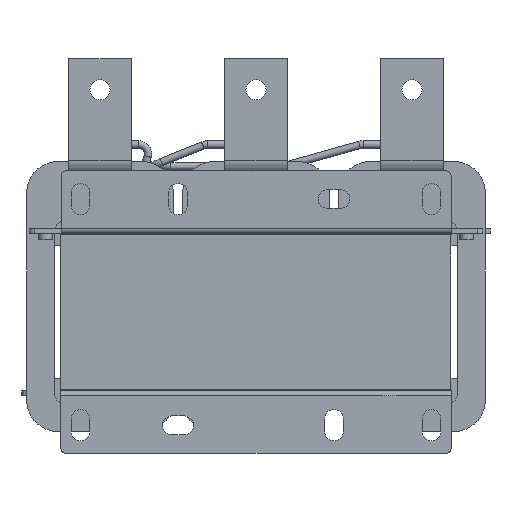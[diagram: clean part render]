
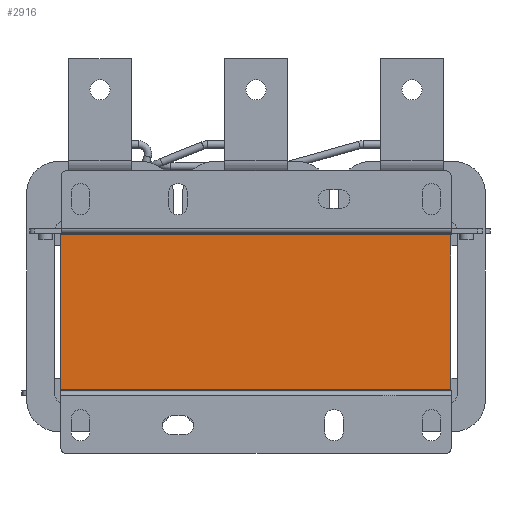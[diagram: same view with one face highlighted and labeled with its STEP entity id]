
A CAD part, front view. The second image highlights one B-rep face of the part: STEP entity #2916.
In plain terms, the highlighted planar face has unit normal (0, -1, 0).
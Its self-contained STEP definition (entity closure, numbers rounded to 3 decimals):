
#2916=ADVANCED_FACE('',(#9805),#9807,.F.);
#9805=FACE_BOUND('',#9806,.T.);
#9806=EDGE_LOOP('',(#18715,#18716,#18717,#18718));
#9807=PLANE('',#9808);
#9808=AXIS2_PLACEMENT_3D('',#9809,#9810,#9811);
#9809=CARTESIAN_POINT('',(-125.,-137.5,99.));
#9810=DIRECTION('',(0.,1.,0.));
#9811=DIRECTION('',(0.,0.,1.));
#18715=ORIENTED_EDGE('',*,*,#22254,.T.);
#18716=ORIENTED_EDGE('',*,*,#22266,.F.);
#18717=ORIENTED_EDGE('',*,*,#22244,.F.);
#18718=ORIENTED_EDGE('',*,*,#22268,.T.);
#22244=EDGE_CURVE('',#24045,#24040,#24047,.T.);
#22254=EDGE_CURVE('',#24067,#24064,#24068,.T.);
#22266=EDGE_CURVE('',#24040,#24064,#24089,.T.);
#22268=EDGE_CURVE('',#24045,#24067,#24091,.T.);
#24040=VERTEX_POINT('',#27085);
#24045=VERTEX_POINT('',#27094);
#24047=LINE('',#27098,#27099);
#24064=VERTEX_POINT('',#27133);
#24067=VERTEX_POINT('',#27138);
#24068=LINE('',#27139,#27140);
#24089=LINE('',#27184,#27185);
#24091=LINE('',#27190,#27191);
#27085=CARTESIAN_POINT('',(125.,-137.5,99.));
#27094=CARTESIAN_POINT('',(-125.,-137.5,99.));
#27098=CARTESIAN_POINT('',(-125.,-137.5,99.));
#27099=VECTOR('',#27100,1.);
#27100=DIRECTION('',(1.,0.,0.));
#27133=CARTESIAN_POINT('',(125.,-137.5,0.));
#27138=CARTESIAN_POINT('',(-125.,-137.5,0.));
#27139=CARTESIAN_POINT('',(-125.,-137.5,0.));
#27140=VECTOR('',#27141,1.);
#27141=DIRECTION('',(1.,0.,0.));
#27184=CARTESIAN_POINT('',(125.,-137.5,99.));
#27185=VECTOR('',#27186,1.);
#27186=DIRECTION('',(0.,0.,-1.));
#27190=CARTESIAN_POINT('',(-125.,-137.5,99.));
#27191=VECTOR('',#27192,1.);
#27192=DIRECTION('',(0.,0.,-1.));
